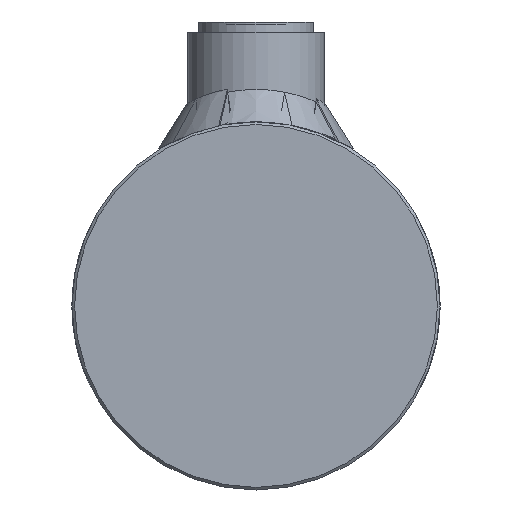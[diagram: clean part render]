
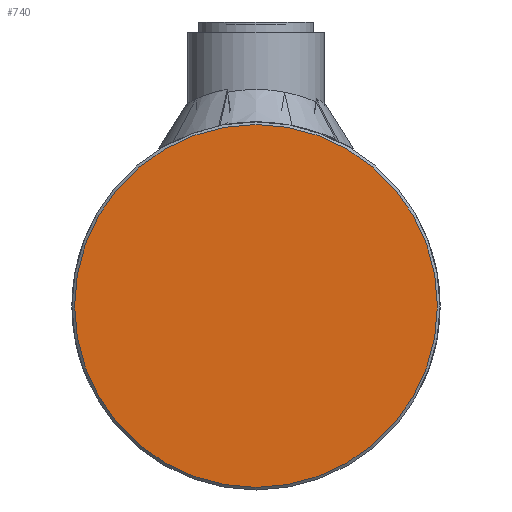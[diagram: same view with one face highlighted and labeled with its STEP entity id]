
A CAD part, left-side view. The second image highlights one B-rep face of the part: STEP entity #740.
In plain terms, the highlighted planar face has unit normal (-1, 0, 0).
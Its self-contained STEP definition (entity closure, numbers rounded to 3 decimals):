
#740 = ADVANCED_FACE( '', ( #1434 ), #1435, .T. );
#1434 = FACE_OUTER_BOUND( '', #3506, .T. );
#1435 = PLANE( '', #3507 );
#3506 = EDGE_LOOP( '', ( #9650 ) );
#3507 = AXIS2_PLACEMENT_3D( '', #9651, #9652, #9653 );
#9650 = ORIENTED_EDGE( '', *, *, #10900, .T. );
#9651 = CARTESIAN_POINT( '', ( -47., 0., 0. ) );
#9652 = DIRECTION( '', ( -1., 0., 0. ) );
#9653 = DIRECTION( '', ( 0., -1., 0. ) );
#10900 = EDGE_CURVE( '', #11645, #11645, #11646, .T. );
#11645 = VERTEX_POINT( '', #13147 );
#11646 = CIRCLE( '', #13148, 34.5 );
#13147 = CARTESIAN_POINT( '', ( -47., -34.5, 0. ) );
#13148 = AXIS2_PLACEMENT_3D( '', #15466, #15467, #15468 );
#15466 = CARTESIAN_POINT( '', ( -47., 0., 0. ) );
#15467 = DIRECTION( '', ( -1., 0., 0. ) );
#15468 = DIRECTION( '', ( 0., -1., 0. ) );
